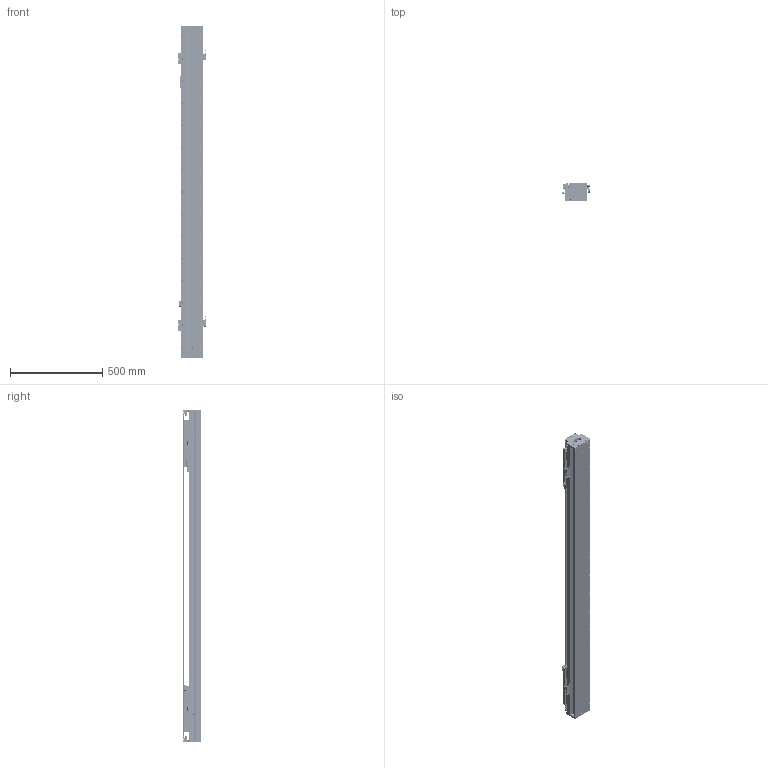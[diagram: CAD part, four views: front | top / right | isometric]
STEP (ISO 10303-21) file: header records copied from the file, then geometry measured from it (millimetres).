
FILE_DESCRIPTION (( 'STEP AP203' ), '1' );
FILE_NAME ('DKW119-2×C3-W060(T1160-L005-0.2).STEP', '2021-09-17T08:52:08', ( '微软用户' ), ( '微软中国' ), 'SwSTEP 2.0', 'SolidWorks 2018', '' );
FILE_SCHEMA (( 'CONFIG_CONTROL_DESIGN' ));
Length unit declared in the file: millimetre
Products named in the file (26): DKW-DG-XJ-Z-00 笢潔滅袉砎蝶; pm-y65; DKW-HXJ-JY-00 遣喳砎蝶; DKW-GYP-ZJ-00 笢潔嫖萇覜茼え; 10980-0001-003-00 嫖萇羲壽嘐隅釱; 11062-0001-004-00 DKW119傷啣; DKW-KGZ-ZJ-00 中间光电开关支架; 嫖萇羲壽蚾饜极; 06652-0001-004-00 DKW120嶺輸菜輸; EE_SX674A; 嫖萇羲壽蚾饜极A; 12018-0001-002-00 詩湍; 12018-0001-001-00 菁釱; DKW119-2×C3-W060(T1160-L005-0.2); DKW-SG-GYP-H-00 嫖萇覜茼え; 砎蝶猾沭; MSB15-DG-U; RUS嫖掑喜; 12160-0000-003-00 DKW120詩湍嶺輸; DKW119-RU-DTJ-00 RU2黍杅芛盓殤; Ru2; 12160-0000-004-00  DKW120詩湍揤輸; 电机出线 ^DKW119-2×C3-W060(T1160-L005-0.2); CKM03-W060_00; DKW119 单轴模组-拉钢带组件; CKMA01-W060-TRLxxx
Assembly tree (45 placements, depth 3):
  DKW119-2×C3-W060(T1160-L005-0.2)
    12018-0001-001-00 菁釱
    MSB15-DG-U  x2
    DKW119-RU-DTJ-00 RU2黍杅芛盓殤  x2
    电机出线 ^DKW119-2×C3-W060(T1160-L005-0.2)  x2
    CKMA01-W060-TRLxxx
    DKW119 单轴模组-拉钢带组件
      DKW-HXJ-JY-00 遣喳砎蝶  x4
      11062-0001-004-00 DKW119傷啣  x2
      06652-0001-004-00 DKW120嶺輸菜輸  x4
      12018-0001-002-00 詩湍
      砎蝶猾沭  x2
      12160-0000-003-00 DKW120詩湍嶺輸  x2
      12160-0000-004-00  DKW120詩湍揤輸  x2
    嫖萇羲壽蚾饜极
      pm-y65  x2
      10980-0001-003-00 嫖萇羲壽嘐隅釱
    嫖萇羲壽蚾饜极A
      pm-y65  x2
      10980-0001-003-00 嫖萇羲壽嘐隅釱
    DKW-SG-GYP-H-00 嫖萇覜茼え  x2
    RUS嫖掑喜
    Ru2  x2
    CKM03-W060_00  x2
    DKW-DG-XJ-Z-00 笢潔滅袉砎蝶
    DKW-GYP-ZJ-00 笢潔嫖萇覜茼え
    DKW-KGZ-ZJ-00 中间光电开关支架
    EE_SX674A
Bounding box: 154.3 x 99 x 1796 mm (x, y, z)
Volume: 9095009.1 mm3; surface area: 2799337.2 mm2
Topology: 62 solids, 160 shells, 6521 faces, 17294 edges, 11066 vertices
Faces by surface type: plane 3484, cylinder 1993, cone 550, bspline 494
Entity records: 133840 total; most frequent: CARTESIAN_POINT 44075, ORIENTED_EDGE 17979, DIRECTION 17360, EDGE_CURVE 9030, VERTEX_POINT 5918, AXIS2_PLACEMENT_3D 5856, VECTOR 5648, LINE 5648
